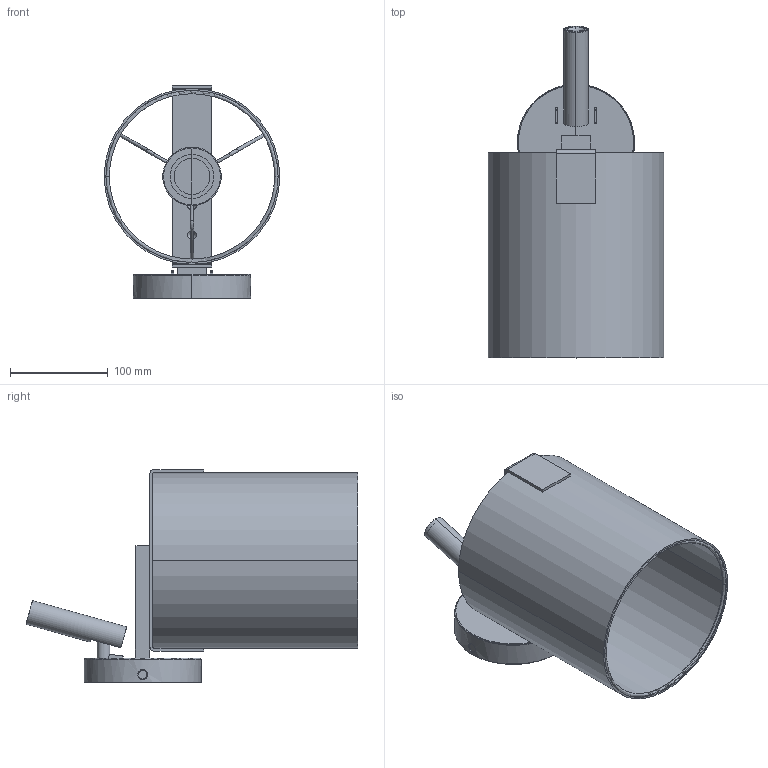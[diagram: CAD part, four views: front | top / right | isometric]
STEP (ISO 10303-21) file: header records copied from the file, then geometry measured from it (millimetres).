
FILE_DESCRIPTION(/* description */ (''),/* implementation_level */ '2;1');
FILE_NAME(/* name */ '20053.step',/* time_stamp */ '2024-05-16T08:56:09+02:00',/* author */ ('RenataManzini'),/* organization */ (''),/* preprocessor_version */ 'ST-DEVELOPER v20',/* originating_system */ 'AutoCAD Mechanical',/* authorisation */ '');
FILE_SCHEMA (('AUTOMOTIVE_DESIGN { 1 0 10303 214 3 1 1 }'));
Length unit declared in the file: millimetre
Products named in the file (2): Product; NILA_APLIQUE_LED - pieza_62173-636912-_3D_
Assembly tree (1 placements, depth 2):
  Product
    NILA_APLIQUE_LED - pieza_62173-636912-_3D_
Bounding box: 180 x 339.97 x 218 mm (x, y, z)
Volume: 432850.4 mm3; surface area: 375268.3 mm2
Topology: 20 solids, 20 shells, 264 faces, 570 edges, 347 vertices
Faces by surface type: plane 126, cylinder 102, torus 22, cone 10, bspline 4
Entity records: 10394 total; most frequent: CARTESIAN_POINT 4563, DIRECTION 1221, ORIENTED_EDGE 1134, EDGE_CURVE 567, AXIS2_PLACEMENT_3D 468, VERTEX_POINT 342, EDGE_LOOP 297, LINE 285
